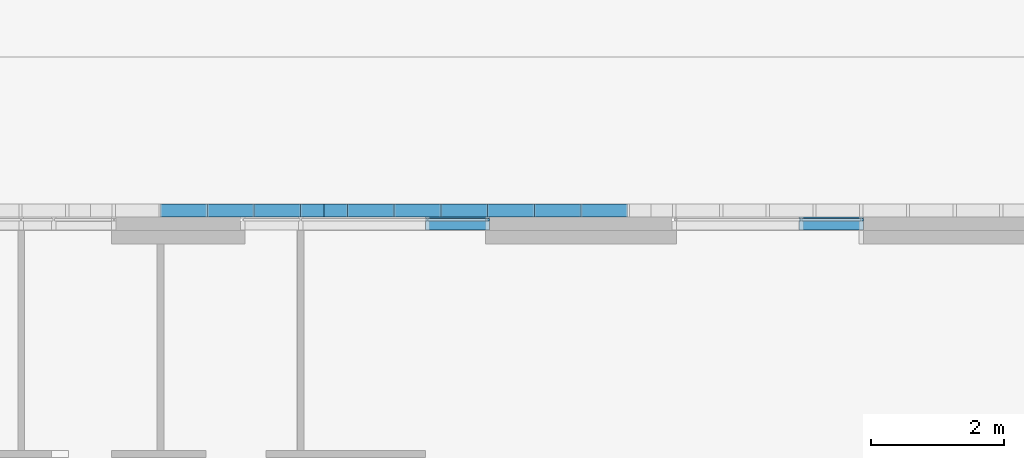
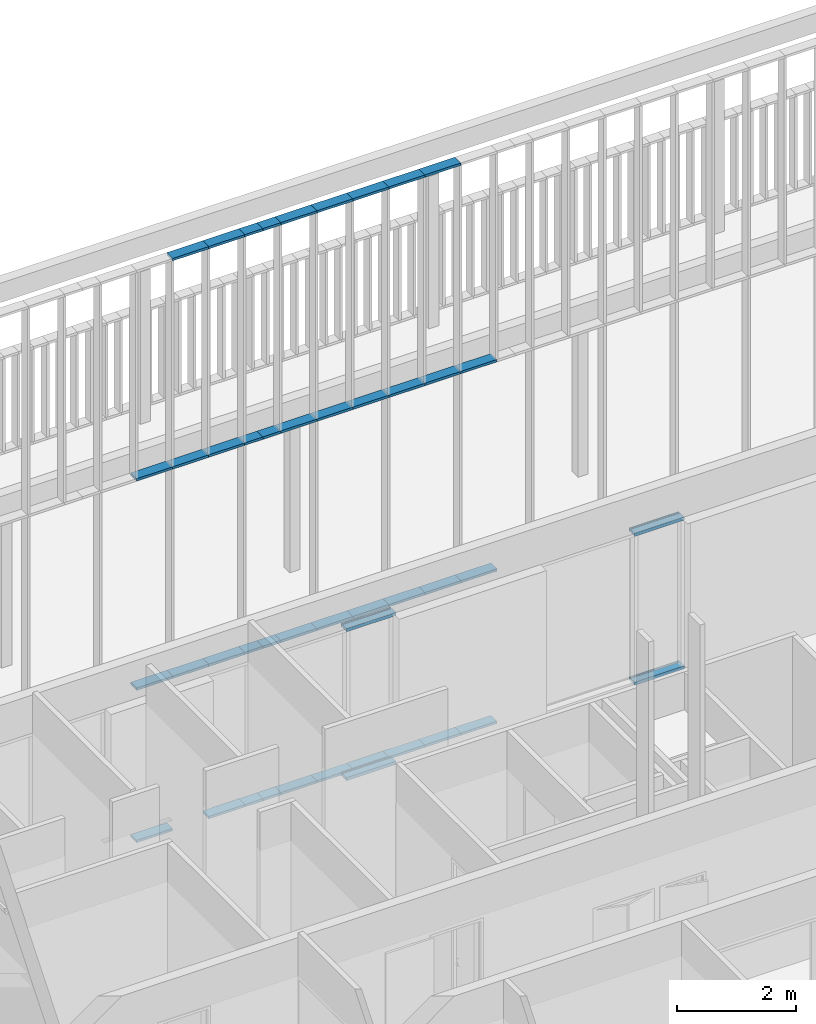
# One storey, part 51 of 240: 45 members, 3 elements without a shape of their own.
"""IFC2X3 building model written with IfcOpenShell, lengths in centimetres."""

from ifc_helpers import new_model, entity, si_unit, converted_unit, derived_unit, direction, frame, origin, origin_2d_with_axis, place, context, subcontext, project, spatial, polyline, rectangle, outline, extrude, source, transform, mapped, material, type_object, type_shapes, element, aggregate, save


model = new_model("IFC2X3")

# Units and contexts
model_context = context("Model", 3, precision=0.001, world=origin(), true_north=direction((6.12303176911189e-17, 1.0)))
body_context = subcontext(model_context, "Body", "Model", "MODEL_VIEW")
ifc_project = project(units=[si_unit("LENGTHUNIT", "METRE", prefix="CENTI"), si_unit("AREAUNIT", "SQUARE_METRE"), si_unit("VOLUMEUNIT", "CUBIC_METRE"), converted_unit("PLANEANGLEUNIT", "DEGREE", entity("IfcRatioMeasure", 0.0174532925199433), si_unit("PLANEANGLEUNIT", "RADIAN"), dimensions=[0, 0, 0, 0, 0, 0, 0]), si_unit("MASSUNIT", "GRAM", prefix="KILO"), derived_unit("MASSDENSITYUNIT", [(si_unit("MASSUNIT", "GRAM", prefix="KILO"), 1), (si_unit("LENGTHUNIT", "METRE"), -3)]), si_unit("TIMEUNIT", "SECOND"), si_unit("FREQUENCYUNIT", "HERTZ"), si_unit("THERMODYNAMICTEMPERATUREUNIT", "DEGREE_CELSIUS"), derived_unit("THERMALTRANSMITTANCEUNIT", [(si_unit("MASSUNIT", "GRAM", prefix="KILO"), 1), (si_unit("THERMODYNAMICTEMPERATUREUNIT", "KELVIN"), -1), (si_unit("TIMEUNIT", "SECOND"), -3)]), derived_unit("VOLUMETRICFLOWRATEUNIT", [(si_unit("LENGTHUNIT", "METRE"), 3), (si_unit("TIMEUNIT", "SECOND"), -1)]), si_unit("ELECTRICCURRENTUNIT", "AMPERE"), si_unit("ELECTRICVOLTAGEUNIT", "VOLT"), si_unit("POWERUNIT", "WATT"), si_unit("FORCEUNIT", "NEWTON", prefix="KILO"), si_unit("ILLUMINANCEUNIT", "LUX"), si_unit("LUMINOUSFLUXUNIT", "LUMEN"), si_unit("LUMINOUSINTENSITYUNIT", "CANDELA"), derived_unit("USERDEFINED", [(si_unit("MASSUNIT", "GRAM", prefix="KILO"), -1), (si_unit("LENGTHUNIT", "METRE"), -2), (si_unit("TIMEUNIT", "SECOND"), 3), (si_unit("LUMINOUSFLUXUNIT", "LUMEN"), 1)]), derived_unit("LINEARVELOCITYUNIT", [(si_unit("LENGTHUNIT", "METRE"), 1), (si_unit("TIMEUNIT", "SECOND"), -1)]), si_unit("PRESSUREUNIT", "PASCAL"), derived_unit("USERDEFINED", [(si_unit("LENGTHUNIT", "METRE"), -2), (si_unit("MASSUNIT", "GRAM", prefix="KILO"), 1), (si_unit("TIMEUNIT", "SECOND"), -2)])], contexts=[model_context])

# Site, building, storey
site_placement = place(None, frame((-2781.94577612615, 7442.24238424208, 0.0)))
site = spatial("IfcSite", under=ifc_project, at=site_placement, Name="Default", CompositionType="ELEMENT")
building_placement = place(site_placement, origin())
building = spatial("IfcBuilding", under=site, at=building_placement, CompositionType="ELEMENT")
storey_placement = place(building_placement, origin())
storey = spatial("IfcBuildingStorey", under=building, at=storey_placement, Name="N00 - COO", CompositionType="ELEMENT", Elevation=0.0)

# Curtain wall, members
curtain_wall_type_1 = type_object("IfcCurtainWallType", Name="Mur-rideau:07 - mur rideau trame 280 cm", PredefinedType="NOTDEFINED")
curtain_wall_1_placement = place(building_placement, origin())
curtain_wall_1 = element("IfcCurtainWall", 1, at=curtain_wall_1_placement, inside=storey, type_object=curtain_wall_type_1, Name="Mur-rideau:07 - mur rideau trame 280 cm", ObjectType="Mur-rideau:07 - mur rideau trame 280 cm")
ifc_material = material(Name="Aluminium")
member_type_1 = type_object("IfcMemberType", Name="150 x 25mm Détails", PredefinedType="MEMBER")
shared_shape_1 = source(origin(), body_context, "Body", "SweptSolid", [
    extrude(outline(polyline([(-5.6666666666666, -3.24999999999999), (-3.66666666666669, -3.24999999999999), (-3.66666666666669, -0.868749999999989), (-0.166666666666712, -0.868749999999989), (-0.166666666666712, -3.25000000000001), (13.3333333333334, -3.25000000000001), (13.3333333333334, 3.24999999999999), (-0.16666666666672, 3.24999999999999), (-0.16666666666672, 0.868749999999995), (-3.66666666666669, 0.868749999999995), (-3.66666666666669, 3.25), (-5.6666666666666, 3.25), (-5.6666666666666, -3.24999999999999)])), frame((-3.24999999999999, -1.96666666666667, -96.5000000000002), z_axis=(0.0, 0.0, 1.0), x_axis=(0.0, -1.0, 0.0)), (0.0, 0.0, 1.0), 96.5),
])
type_shapes(member_type_1, [shared_shape_1])
member_1_placement = place(building_placement, frame((-1622.54988284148, -1073.7999999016, 6.5), z_axis=(-1.0, 0.0, 0.0), x_axis=(0.0, 0.0, 1.0)))
member_1 = element("IfcMember", 2, at=member_1_placement, type_object=member_type_1, material=ifc_material, Name="Meneau rectangulaire:150 x 25mm Détails", ObjectType="Meneau rectangulaire:150 x 25mm Détails", context=body_context, shape_type="MappedRepresentation", body=[
    mapped(shared_shape_1, transform((0.0, 0.0, 0.0), scale=1.0)),
])
member_type_2 = type_object("IfcMemberType", Name="150 x 25mm Détails", PredefinedType="MEMBER")
shared_shape_2 = source(origin(), body_context, "Body", "SweptSolid", [
    extrude(outline(polyline([(-5.66666666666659, -3.25), (-3.66666666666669, -3.25), (-3.66666666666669, -0.868749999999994), (-0.166666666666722, -0.868749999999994), (-0.166666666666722, -3.25000000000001), (13.3333333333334, -3.24999999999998), (13.3333333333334, 3.25000000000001), (-0.166666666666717, 3.25000000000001), (-0.166666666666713, 0.868749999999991), (-3.66666666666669, 0.868749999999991), (-3.66666666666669, 3.24999999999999), (-5.66666666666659, 3.24999999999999), (-5.66666666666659, -3.25)])), frame((-3.24999999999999, -1.96666666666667, -96.5000000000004), z_axis=(0.0, 0.0, 1.0), x_axis=(0.0, -1.0, 0.0)), (0.0, 0.0, 1.0), 96.5),
])
type_shapes(member_type_2, [shared_shape_2])
member_2_placement = place(building_placement, frame((-1526.04988284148, -1073.7999999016, 306.0), z_axis=(1.0, 0.0, 0.0), x_axis=(0.0, 0.0, -1.0)))
member_2 = element("IfcMember", 3, at=member_2_placement, type_object=member_type_2, material=ifc_material, Name="Meneau rectangulaire:150 x 25mm Détails", ObjectType="Meneau rectangulaire:150 x 25mm Détails", context=body_context, shape_type="MappedRepresentation", body=[
    mapped(shared_shape_2, transform((0.0, 0.0, 0.0), scale=1.0)),
])
aggregate(curtain_wall_1, [member_2, member_1])

curtain_wall_2_placement = place(building_placement, origin())
curtain_wall_2 = element("IfcCurtainWall", 4, at=curtain_wall_2_placement, inside=storey, type_object=curtain_wall_type_1, Name="Mur-rideau:07 - mur rideau trame 280 cm", ObjectType="Mur-rideau:07 - mur rideau trame 280 cm")
member_type_3 = type_object("IfcMemberType", Name="150 x 25mm Détails", PredefinedType="MEMBER")
shared_shape_3 = source(origin(), body_context, "Body", "SweptSolid", [
    extrude(outline(polyline([(-13.3333333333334, -3.25000000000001), (0.166666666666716, -3.25000000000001), (0.166666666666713, -0.86874999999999), (3.66666666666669, -0.86874999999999), (3.66666666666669, -3.24999999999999), (5.66666666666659, -3.24999999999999), (5.66666666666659, 3.25), (3.66666666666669, 3.25), (3.66666666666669, 0.868749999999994), (0.166666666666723, 0.868749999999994), (0.166666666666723, 3.25000000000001), (-13.3333333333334, 3.24999999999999), (-13.3333333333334, -3.25000000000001)])), frame((-3.24999999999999, 1.96666666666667, -96.5000000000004), z_axis=(0.0, 0.0, 1.0), x_axis=(0.0, -1.0, 0.0)), (0.0, 0.0, 1.0), 96.5),
])
type_shapes(member_type_3, [shared_shape_3])
member_3_placement = place(building_placement, frame((-2086.04988284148, -1073.7999999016, 6.5), z_axis=(1.0, 0.0, 0.0), x_axis=(0.0, 0.0, 1.0)))
member_3 = element("IfcMember", 5, at=member_3_placement, type_object=member_type_3, material=ifc_material, Name="Meneau rectangulaire:150 x 25mm Détails", ObjectType="Meneau rectangulaire:150 x 25mm Détails", context=body_context, shape_type="MappedRepresentation", body=[
    mapped(shared_shape_3, transform((0.0, 0.0, 0.0), scale=1.0)),
])
member_type_4 = type_object("IfcMemberType", Name="150 x 25mm Détails", PredefinedType="MEMBER")
shared_shape_4 = source(origin(), body_context, "Body", "SweptSolid", [
    extrude(outline(polyline([(-13.3333333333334, -3.24999999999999), (0.166666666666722, -3.24999999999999), (0.166666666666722, -0.868749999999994), (3.66666666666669, -0.868749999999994), (3.66666666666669, -3.25), (5.66666666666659, -3.25), (5.66666666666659, 3.24999999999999), (3.66666666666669, 3.24999999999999), (3.66666666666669, 0.86874999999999), (0.166666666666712, 0.86874999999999), (0.166666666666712, 3.25000000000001), (-13.3333333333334, 3.25000000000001), (-13.3333333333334, -3.24999999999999)])), frame((-3.24999999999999, 1.96666666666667, -96.5000000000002), z_axis=(0.0, 0.0, 1.0), x_axis=(0.0, -1.0, 0.0)), (0.0, 0.0, 1.0), 96.5),
])
type_shapes(member_type_4, [shared_shape_4])
member_4_placement = place(building_placement, frame((-2182.54988284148, -1073.7999999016, 306.0), z_axis=(-1.0, 0.0, 0.0), x_axis=(0.0, 0.0, -1.0)))
member_4 = element("IfcMember", 6, at=member_4_placement, type_object=member_type_4, material=ifc_material, Name="Meneau rectangulaire:150 x 25mm Détails", ObjectType="Meneau rectangulaire:150 x 25mm Détails", context=body_context, shape_type="MappedRepresentation", body=[
    mapped(shared_shape_4, transform((0.0, 0.0, 0.0), scale=1.0)),
])
aggregate(curtain_wall_2, [member_4, member_3])

curtain_wall_type_2 = type_object("IfcCurtainWallType", Name="Mur-rideau:Epines - 200x30mm", PredefinedType="NOTDEFINED")
curtain_wall_3_placement = place(storey_placement, origin())
curtain_wall_3 = element("IfcCurtainWall", 7, at=curtain_wall_3_placement, inside=storey, type_object=curtain_wall_type_2, Name="Mur-rideau:Epines - 200x30mm", ObjectType="Mur-rideau:Epines - 200x30mm")
member_type_5 = type_object("IfcMemberType", Name="200x50 mm", PredefinedType="MEMBER")
shared_shape_5 = source(origin(), body_context, "Body", "SweptSolid", [
    extrude(rectangle(XDim=20.0, YDim=5.0, at=origin_2d_with_axis()), frame((-2.5, 0.0, -70.0), z_axis=(0.0, 0.0, 1.0), x_axis=(0.0, -1.0, 0.0)), (0.0, 0.0, 1.0), 70.0000000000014),
])
type_shapes(member_type_5, [shared_shape_5])
member_5_placement = place(storey_placement, frame((-2089.29988284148, -1060.0, 1176.0), z_axis=(1.0, 0.0, 0.0), x_axis=(0.0, 0.0, 1.0)))
member_5 = element("IfcMember", 8, at=member_5_placement, type_object=member_type_5, material=ifc_material, Name="Meneau rectangulaire:200x50 mm", ObjectType="Meneau rectangulaire:200x50 mm", context=body_context, shape_type="MappedRepresentation", body=[
    mapped(shared_shape_5, transform((0.0, 0.0, 0.0), scale=1.0)),
])
member_6_placement = place(storey_placement, frame((-2369.29988284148, -1060.0, 1176.0), z_axis=(1.0, 0.0, 0.0), x_axis=(0.0, 0.0, 1.0)))
member_6 = element("IfcMember", 9, at=member_6_placement, type_object=member_type_5, material=ifc_material, Name="Meneau rectangulaire:200x50 mm", ObjectType="Meneau rectangulaire:200x50 mm", context=body_context, shape_type="MappedRepresentation", body=[
    mapped(shared_shape_5, transform((0.0, 0.0, 0.0), scale=1.0)),
])
member_7_placement = place(storey_placement, frame((-1949.29988284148, -1060.0, 1176.0), z_axis=(1.0, 0.0, 0.0), x_axis=(0.0, 0.0, 1.0)))
member_7 = element("IfcMember", 10, at=member_7_placement, type_object=member_type_5, material=ifc_material, Name="Meneau rectangulaire:200x50 mm", ObjectType="Meneau rectangulaire:200x50 mm", context=body_context, shape_type="MappedRepresentation", body=[
    mapped(shared_shape_5, transform((0.0, 0.0, 0.0), scale=1.0)),
])
member_8_placement = place(storey_placement, frame((-2229.29988284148, -1060.0, 1176.0), z_axis=(1.0, 0.0, 0.0), x_axis=(0.0, 0.0, 1.0)))
member_8 = element("IfcMember", 11, at=member_8_placement, type_object=member_type_5, material=ifc_material, Name="Meneau rectangulaire:200x50 mm", ObjectType="Meneau rectangulaire:200x50 mm", context=body_context, shape_type="MappedRepresentation", body=[
    mapped(shared_shape_5, transform((0.0, 0.0, 0.0), scale=1.0)),
])
member_9_placement = place(storey_placement, frame((-2019.29988284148, -1060.0, 1176.0), z_axis=(1.0, 0.0, 0.0), x_axis=(0.0, 0.0, 1.0)))
member_9 = element("IfcMember", 12, at=member_9_placement, type_object=member_type_5, material=ifc_material, Name="Meneau rectangulaire:200x50 mm", ObjectType="Meneau rectangulaire:200x50 mm", context=body_context, shape_type="MappedRepresentation", body=[
    mapped(shared_shape_5, transform((0.0, 0.0, 0.0), scale=1.0)),
])
member_10_placement = place(storey_placement, frame((-2159.29988284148, -1060.0, 1176.0), z_axis=(1.0, 0.0, 0.0), x_axis=(0.0, 0.0, 1.0)))
member_10 = element("IfcMember", 13, at=member_10_placement, type_object=member_type_5, material=ifc_material, Name="Meneau rectangulaire:200x50 mm", ObjectType="Meneau rectangulaire:200x50 mm", context=body_context, shape_type="MappedRepresentation", body=[
    mapped(shared_shape_5, transform((0.0, 0.0, 0.0), scale=1.0)),
])
member_11_placement = place(storey_placement, frame((-2439.29988284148, -1060.0, 1176.0), z_axis=(1.0, 0.0, 0.0), x_axis=(0.0, 0.0, 1.0)))
member_11 = element("IfcMember", 14, at=member_11_placement, type_object=member_type_5, material=ifc_material, Name="Meneau rectangulaire:200x50 mm", ObjectType="Meneau rectangulaire:200x50 mm", context=body_context, shape_type="MappedRepresentation", body=[
    mapped(shared_shape_5, transform((0.0, 0.0, 0.0), scale=1.0)),
])
member_type_6 = type_object("IfcMemberType", Name="200x50 mm", PredefinedType="MEMBER")
shared_shape_6 = source(origin(), body_context, "Body", "SweptSolid", [
    extrude(rectangle(XDim=20.0, YDim=5.0, at=origin_2d_with_axis()), frame((-2.5, 0.0, -70.0), z_axis=(0.0, 0.0, 1.0), x_axis=(0.0, -1.0, 0.0)), (0.0, 0.0, 1.0), 70.0000000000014),
])
type_shapes(member_type_6, [shared_shape_6])
member_12_placement = place(storey_placement, frame((-2089.29988284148, -1060.0, 0.0), z_axis=(-1.0, 0.0, 0.0), x_axis=(0.0, 0.0, -1.0)))
member_12 = element("IfcMember", 15, at=member_12_placement, type_object=member_type_6, material=ifc_material, Name="Meneau rectangulaire:200x50 mm", ObjectType="Meneau rectangulaire:200x50 mm", context=body_context, shape_type="MappedRepresentation", body=[
    mapped(shared_shape_6, transform((0.0, 0.0, 0.0), scale=1.0)),
])
member_type_7 = type_object("IfcMemberType", Name="200x50 mm", PredefinedType="MEMBER")
shared_shape_7 = source(origin(), body_context, "Body", "SweptSolid", [
    extrude(rectangle(XDim=20.0, YDim=5.0, at=origin_2d_with_axis()), frame((0.0, 0.0, -70.0), z_axis=(0.0, 0.0, 1.0), x_axis=(0.0, -1.0, 0.0)), (0.0, 0.0, 1.0), 70.0000000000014),
])
type_shapes(member_type_7, [shared_shape_7])
member_13_placement = place(storey_placement, frame((-2019.29988284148, -1060.0, 315.5), z_axis=(1.0, 0.0, 0.0), x_axis=(0.0, 0.0, 1.0)))
member_13 = element("IfcMember", 16, at=member_13_placement, type_object=member_type_7, material=ifc_material, Name="Meneau rectangulaire:200x50 mm", ObjectType="Meneau rectangulaire:200x50 mm", context=body_context, shape_type="MappedRepresentation", body=[
    mapped(shared_shape_7, transform((0.0, 0.0, 0.0), scale=1.0)),
])
member_14_placement = place(storey_placement, frame((-1879.29988284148, -1060.0, 315.5), z_axis=(1.0, 0.0, 0.0), x_axis=(0.0, 0.0, 1.0)))
member_14 = element("IfcMember", 17, at=member_14_placement, type_object=member_type_7, material=ifc_material, Name="Meneau rectangulaire:200x50 mm", ObjectType="Meneau rectangulaire:200x50 mm", context=body_context, shape_type="MappedRepresentation", body=[
    mapped(shared_shape_7, transform((0.0, 0.0, 0.0), scale=1.0)),
])
member_15_placement = place(storey_placement, frame((-2159.29988284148, -1060.0, 315.5), z_axis=(1.0, 0.0, 0.0), x_axis=(0.0, 0.0, 1.0)))
member_15 = element("IfcMember", 18, at=member_15_placement, type_object=member_type_7, material=ifc_material, Name="Meneau rectangulaire:200x50 mm", ObjectType="Meneau rectangulaire:200x50 mm", context=body_context, shape_type="MappedRepresentation", body=[
    mapped(shared_shape_7, transform((0.0, 0.0, 0.0), scale=1.0)),
])
member_16_placement = place(storey_placement, frame((-2439.29988284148, -1060.0, 315.5), z_axis=(1.0, 0.0, 0.0), x_axis=(0.0, 0.0, 1.0)))
member_16 = element("IfcMember", 19, at=member_16_placement, type_object=member_type_7, material=ifc_material, Name="Meneau rectangulaire:200x50 mm", ObjectType="Meneau rectangulaire:200x50 mm", context=body_context, shape_type="MappedRepresentation", body=[
    mapped(shared_shape_7, transform((0.0, 0.0, 0.0), scale=1.0)),
])
member_type_8 = type_object("IfcMemberType", Name="200x50 mm", PredefinedType="MEMBER")
shared_shape_8 = source(origin(), body_context, "Body", "SweptSolid", [
    extrude(rectangle(XDim=20.0, YDim=5.0, at=origin_2d_with_axis()), frame((0.0, 0.0, -70.0), z_axis=(0.0, 0.0, 1.0), x_axis=(0.0, -1.0, 0.0)), (0.0, 0.0, 1.0), 70.0000000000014),
])
type_shapes(member_type_8, [shared_shape_8])
member_17_placement = place(storey_placement, frame((-2019.29988284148, -1060.0, 745.5), z_axis=(1.0, 0.0, 0.0), x_axis=(0.0, 0.0, 1.0)))
member_17 = element("IfcMember", 20, at=member_17_placement, type_object=member_type_8, material=ifc_material, Name="Meneau rectangulaire:200x50 mm", ObjectType="Meneau rectangulaire:200x50 mm", context=body_context, shape_type="MappedRepresentation", body=[
    mapped(shared_shape_8, transform((0.0, 0.0, 0.0), scale=1.0)),
])
member_18_placement = place(storey_placement, frame((-1879.29988284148, -1060.0, 745.5), z_axis=(1.0, 0.0, 0.0), x_axis=(0.0, 0.0, 1.0)))
member_18 = element("IfcMember", 21, at=member_18_placement, type_object=member_type_8, material=ifc_material, Name="Meneau rectangulaire:200x50 mm", ObjectType="Meneau rectangulaire:200x50 mm", context=body_context, shape_type="MappedRepresentation", body=[
    mapped(shared_shape_8, transform((0.0, 0.0, 0.0), scale=1.0)),
])
member_19_placement = place(storey_placement, frame((-2159.29988284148, -1060.0, 745.5), z_axis=(1.0, 0.0, 0.0), x_axis=(0.0, 0.0, 1.0)))
member_19 = element("IfcMember", 22, at=member_19_placement, type_object=member_type_8, material=ifc_material, Name="Meneau rectangulaire:200x50 mm", ObjectType="Meneau rectangulaire:200x50 mm", context=body_context, shape_type="MappedRepresentation", body=[
    mapped(shared_shape_8, transform((0.0, 0.0, 0.0), scale=1.0)),
])
member_20_placement = place(storey_placement, frame((-2439.29988284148, -1060.0, 745.5), z_axis=(1.0, 0.0, 0.0), x_axis=(0.0, 0.0, 1.0)))
member_20 = element("IfcMember", 23, at=member_20_placement, type_object=member_type_8, material=ifc_material, Name="Meneau rectangulaire:200x50 mm", ObjectType="Meneau rectangulaire:200x50 mm", context=body_context, shape_type="MappedRepresentation", body=[
    mapped(shared_shape_8, transform((0.0, 0.0, 0.0), scale=1.0)),
])
member_21_placement = place(storey_placement, frame((-1949.29988284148, -1060.0, 745.5), z_axis=(1.0, 0.0, 0.0), x_axis=(0.0, 0.0, 1.0)))
member_21 = element("IfcMember", 24, at=member_21_placement, type_object=member_type_8, material=ifc_material, Name="Meneau rectangulaire:200x50 mm", ObjectType="Meneau rectangulaire:200x50 mm", context=body_context, shape_type="MappedRepresentation", body=[
    mapped(shared_shape_8, transform((0.0, 0.0, 0.0), scale=1.0)),
])
member_22_placement = place(storey_placement, frame((-2089.29988284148, -1060.0, 745.5), z_axis=(1.0, 0.0, 0.0), x_axis=(0.0, 0.0, 1.0)))
member_22 = element("IfcMember", 25, at=member_22_placement, type_object=member_type_8, material=ifc_material, Name="Meneau rectangulaire:200x50 mm", ObjectType="Meneau rectangulaire:200x50 mm", context=body_context, shape_type="MappedRepresentation", body=[
    mapped(shared_shape_8, transform((0.0, 0.0, 0.0), scale=1.0)),
])
member_23_placement = place(storey_placement, frame((-2229.29988284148, -1060.0, 745.5), z_axis=(1.0, 0.0, 0.0), x_axis=(0.0, 0.0, 1.0)))
member_23 = element("IfcMember", 26, at=member_23_placement, type_object=member_type_8, material=ifc_material, Name="Meneau rectangulaire:200x50 mm", ObjectType="Meneau rectangulaire:200x50 mm", context=body_context, shape_type="MappedRepresentation", body=[
    mapped(shared_shape_8, transform((0.0, 0.0, 0.0), scale=1.0)),
])
member_24_placement = place(storey_placement, frame((-2369.29988284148, -1060.0, 745.5), z_axis=(1.0, 0.0, 0.0), x_axis=(0.0, 0.0, 1.0)))
member_24 = element("IfcMember", 27, at=member_24_placement, type_object=member_type_8, material=ifc_material, Name="Meneau rectangulaire:200x50 mm", ObjectType="Meneau rectangulaire:200x50 mm", context=body_context, shape_type="MappedRepresentation", body=[
    mapped(shared_shape_8, transform((0.0, 0.0, 0.0), scale=1.0)),
])
member_25_placement = place(storey_placement, frame((-2509.29988284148, -1060.0, 745.5), z_axis=(1.0, 0.0, 0.0), x_axis=(0.0, 0.0, 1.0)))
member_25 = element("IfcMember", 28, at=member_25_placement, type_object=member_type_8, material=ifc_material, Name="Meneau rectangulaire:200x50 mm", ObjectType="Meneau rectangulaire:200x50 mm", context=body_context, shape_type="MappedRepresentation", body=[
    mapped(shared_shape_8, transform((0.0, 0.0, 0.0), scale=1.0)),
])
member_type_9 = type_object("IfcMemberType", Name="200x50 mm", PredefinedType="MEMBER")
shared_shape_9 = source(origin(), body_context, "Body", "SweptSolid", [
    extrude(rectangle(XDim=20.0, YDim=5.0, at=origin_2d_with_axis()), frame((-2.5, 0.0, -70.0), z_axis=(0.0, 0.0, 1.0), x_axis=(0.0, -1.0, 0.0)), (0.0, 0.0, 1.0), 69.9999999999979),
])
type_shapes(member_type_9, [shared_shape_9])
member_26_placement = place(storey_placement, frame((-1949.29988284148, -1060.0, 0.0), z_axis=(-1.0, 0.0, 0.0), x_axis=(0.0, 0.0, -1.0)))
member_26 = element("IfcMember", 29, at=member_26_placement, type_object=member_type_9, material=ifc_material, Name="Meneau rectangulaire:200x50 mm", ObjectType="Meneau rectangulaire:200x50 mm", context=body_context, shape_type="MappedRepresentation", body=[
    mapped(shared_shape_9, transform((0.0, 0.0, 0.0), scale=1.0)),
])
member_27_placement = place(storey_placement, frame((-2229.29988284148, -1060.0, 0.0), z_axis=(-1.0, 0.0, 0.0), x_axis=(0.0, 0.0, -1.0)))
member_27 = element("IfcMember", 30, at=member_27_placement, type_object=member_type_9, material=ifc_material, Name="Meneau rectangulaire:200x50 mm", ObjectType="Meneau rectangulaire:200x50 mm", context=body_context, shape_type="MappedRepresentation", body=[
    mapped(shared_shape_9, transform((0.0, 0.0, 0.0), scale=1.0)),
])
member_28_placement = place(storey_placement, frame((-2019.29988284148, -1060.0, 0.0), z_axis=(-1.0, 0.0, 0.0), x_axis=(0.0, 0.0, -1.0)))
member_28 = element("IfcMember", 31, at=member_28_placement, type_object=member_type_9, material=ifc_material, Name="Meneau rectangulaire:200x50 mm", ObjectType="Meneau rectangulaire:200x50 mm", context=body_context, shape_type="MappedRepresentation", body=[
    mapped(shared_shape_9, transform((0.0, 0.0, 0.0), scale=1.0)),
])
member_29_placement = place(storey_placement, frame((-2299.29988284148, -1060.0, 0.0), z_axis=(-1.0, 0.0, 0.0), x_axis=(0.0, 0.0, -1.0)))
member_29 = element("IfcMember", 32, at=member_29_placement, type_object=member_type_9, material=ifc_material, Name="Meneau rectangulaire:200x50 mm", ObjectType="Meneau rectangulaire:200x50 mm", context=body_context, shape_type="MappedRepresentation", body=[
    mapped(shared_shape_9, transform((0.0, 0.0, 0.0), scale=1.0)),
])
member_30_placement = place(storey_placement, frame((-2579.29988284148, -1060.0, 0.0), z_axis=(-1.0, 0.0, 0.0), x_axis=(0.0, 0.0, -1.0)))
member_30 = element("IfcMember", 33, at=member_30_placement, type_object=member_type_9, material=ifc_material, Name="Meneau rectangulaire:200x50 mm", ObjectType="Meneau rectangulaire:200x50 mm", context=body_context, shape_type="MappedRepresentation", body=[
    mapped(shared_shape_9, transform((0.0, 0.0, 0.0), scale=1.0)),
])
member_type_10 = type_object("IfcMemberType", Name="200x50 mm", PredefinedType="MEMBER")
shared_shape_10 = source(origin(), body_context, "Body", "SweptSolid", [
    extrude(rectangle(XDim=20.0, YDim=5.0, at=origin_2d_with_axis()), frame((0.0, 0.0, -70.0), z_axis=(0.0, 0.0, 1.0), x_axis=(0.0, -1.0, 0.0)), (0.0, 0.0, 1.0), 70.0000000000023),
])
type_shapes(member_type_10, [shared_shape_10])
member_31_placement = place(storey_placement, frame((-1949.29988284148, -1060.0, 315.5), z_axis=(1.0, 0.0, 0.0), x_axis=(0.0, 0.0, 1.0)))
member_31 = element("IfcMember", 34, at=member_31_placement, type_object=member_type_10, material=ifc_material, Name="Meneau rectangulaire:200x50 mm", ObjectType="Meneau rectangulaire:200x50 mm", context=body_context, shape_type="MappedRepresentation", body=[
    mapped(shared_shape_10, transform((0.0, 0.0, 0.0), scale=1.0)),
])
member_32_placement = place(storey_placement, frame((-2089.29988284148, -1060.0, 315.5), z_axis=(1.0, 0.0, 0.0), x_axis=(0.0, 0.0, 1.0)))
member_32 = element("IfcMember", 35, at=member_32_placement, type_object=member_type_10, material=ifc_material, Name="Meneau rectangulaire:200x50 mm", ObjectType="Meneau rectangulaire:200x50 mm", context=body_context, shape_type="MappedRepresentation", body=[
    mapped(shared_shape_10, transform((0.0, 0.0, 0.0), scale=1.0)),
])
member_33_placement = place(storey_placement, frame((-2229.29988284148, -1060.0, 315.5), z_axis=(1.0, 0.0, 0.0), x_axis=(0.0, 0.0, 1.0)))
member_33 = element("IfcMember", 36, at=member_33_placement, type_object=member_type_10, material=ifc_material, Name="Meneau rectangulaire:200x50 mm", ObjectType="Meneau rectangulaire:200x50 mm", context=body_context, shape_type="MappedRepresentation", body=[
    mapped(shared_shape_10, transform((0.0, 0.0, 0.0), scale=1.0)),
])
member_34_placement = place(storey_placement, frame((-2369.29988284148, -1060.0, 315.5), z_axis=(1.0, 0.0, 0.0), x_axis=(0.0, 0.0, 1.0)))
member_34 = element("IfcMember", 37, at=member_34_placement, type_object=member_type_10, material=ifc_material, Name="Meneau rectangulaire:200x50 mm", ObjectType="Meneau rectangulaire:200x50 mm", context=body_context, shape_type="MappedRepresentation", body=[
    mapped(shared_shape_10, transform((0.0, 0.0, 0.0), scale=1.0)),
])
member_35_placement = place(storey_placement, frame((-2509.29988284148, -1060.0, 315.5), z_axis=(1.0, 0.0, 0.0), x_axis=(0.0, 0.0, 1.0)))
member_35 = element("IfcMember", 38, at=member_35_placement, type_object=member_type_10, material=ifc_material, Name="Meneau rectangulaire:200x50 mm", ObjectType="Meneau rectangulaire:200x50 mm", context=body_context, shape_type="MappedRepresentation", body=[
    mapped(shared_shape_10, transform((0.0, 0.0, 0.0), scale=1.0)),
])
member_type_11 = type_object("IfcMemberType", Name="200x50 mm", PredefinedType="MEMBER")
shared_shape_11 = source(origin(), body_context, "Body", "SweptSolid", [
    extrude(rectangle(XDim=20.0, YDim=5.0, at=origin_2d_with_axis()), frame((-2.5, 0.0, -70.0), z_axis=(0.0, 0.0, 1.0), x_axis=(0.0, -1.0, 0.0)), (0.0, 0.0, 1.0), 70.0000000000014),
])
type_shapes(member_type_11, [shared_shape_11])
member_36_placement = place(storey_placement, frame((-2159.29988284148, -1060.0, 0.0), z_axis=(-1.0, 0.0, 0.0), x_axis=(0.0, 0.0, -1.0)))
member_36 = element("IfcMember", 39, at=member_36_placement, type_object=member_type_11, material=ifc_material, Name="Meneau rectangulaire:200x50 mm", ObjectType="Meneau rectangulaire:200x50 mm", context=body_context, shape_type="MappedRepresentation", body=[
    mapped(shared_shape_11, transform((0.0, 0.0, 0.0), scale=1.0)),
])
member_37_placement = place(storey_placement, frame((-2439.29988284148, -1060.0, 0.0), z_axis=(-1.0, 0.0, 0.0), x_axis=(0.0, 0.0, -1.0)))
member_37 = element("IfcMember", 40, at=member_37_placement, type_object=member_type_11, material=ifc_material, Name="Meneau rectangulaire:200x50 mm", ObjectType="Meneau rectangulaire:200x50 mm", context=body_context, shape_type="MappedRepresentation", body=[
    mapped(shared_shape_11, transform((0.0, 0.0, 0.0), scale=1.0)),
])
member_type_12 = type_object("IfcMemberType", Name="200x50 mm", PredefinedType="MEMBER")
shared_shape_12 = source(origin(), body_context, "Body", "SweptSolid", [
    extrude(rectangle(XDim=20.0, YDim=5.0, at=origin_2d_with_axis()), frame((-2.5, 0.0, -35.0), z_axis=(0.0, 0.0, 1.0), x_axis=(0.0, -1.0, 0.0)), (0.0, 0.0, 1.0), 35.0000000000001),
])
type_shapes(member_type_12, [shared_shape_12])
member_38_placement = place(storey_placement, frame((-2299.29988284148, -1060.0, 1176.0), z_axis=(1.0, 0.0, 0.0), x_axis=(0.0, 0.0, 1.0)))
member_38 = element("IfcMember", 41, at=member_38_placement, type_object=member_type_12, material=ifc_material, Name="Meneau rectangulaire:200x50 mm", ObjectType="Meneau rectangulaire:200x50 mm", context=body_context, shape_type="MappedRepresentation", body=[
    mapped(shared_shape_12, transform((0.0, 0.0, 0.0), scale=1.0)),
])
member_type_13 = type_object("IfcMemberType", Name="200x50 mm", PredefinedType="MEMBER")
shared_shape_13 = source(origin(), body_context, "Body", "SweptSolid", [
    extrude(rectangle(XDim=20.0, YDim=5.0, at=origin_2d_with_axis()), frame((-2.5, 0.0, -35.0), z_axis=(0.0, 0.0, 1.0), x_axis=(0.0, -1.0, 0.0)), (0.0, 0.0, 1.0), 34.9999999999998),
])
type_shapes(member_type_13, [shared_shape_13])
member_39_placement = place(storey_placement, frame((-2369.29988284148, -1060.0, 0.0), z_axis=(-1.0, 0.0, 0.0), x_axis=(0.0, 0.0, -1.0)))
member_39 = element("IfcMember", 42, at=member_39_placement, type_object=member_type_13, material=ifc_material, Name="Meneau rectangulaire:200x50 mm", ObjectType="Meneau rectangulaire:200x50 mm", context=body_context, shape_type="MappedRepresentation", body=[
    mapped(shared_shape_13, transform((0.0, 0.0, 0.0), scale=1.0)),
])
member_type_14 = type_object("IfcMemberType", Name="200x50 mm", PredefinedType="MEMBER")
shared_shape_14 = source(origin(), body_context, "Body", "SweptSolid", [
    extrude(rectangle(XDim=20.0, YDim=5.0, at=origin_2d_with_axis()), frame((0.0, 0.0, -35.0), z_axis=(0.0, 0.0, 1.0), x_axis=(0.0, -1.0, 0.0)), (0.0, 0.0, 1.0), 34.9999999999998),
])
type_shapes(member_type_14, [shared_shape_14])
member_40_placement = place(storey_placement, frame((-2334.29988284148, -1060.0, 315.5), z_axis=(1.0, 0.0, 0.0), x_axis=(0.0, 0.0, 1.0)))
member_40 = element("IfcMember", 43, at=member_40_placement, type_object=member_type_14, material=ifc_material, Name="Meneau rectangulaire:200x50 mm", ObjectType="Meneau rectangulaire:200x50 mm", context=body_context, shape_type="MappedRepresentation", body=[
    mapped(shared_shape_14, transform((0.0, 0.0, 0.0), scale=1.0)),
])
member_41_placement = place(storey_placement, frame((-2334.29988284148, -1060.0, 745.5), z_axis=(1.0, 0.0, 0.0), x_axis=(0.0, 0.0, 1.0)))
member_41 = element("IfcMember", 44, at=member_41_placement, type_object=member_type_14, material=ifc_material, Name="Meneau rectangulaire:200x50 mm", ObjectType="Meneau rectangulaire:200x50 mm", context=body_context, shape_type="MappedRepresentation", body=[
    mapped(shared_shape_14, transform((0.0, 0.0, 0.0), scale=1.0)),
])
member_type_15 = type_object("IfcMemberType", Name="200x50 mm", PredefinedType="MEMBER")
shared_shape_15 = source(origin(), body_context, "Body", "SweptSolid", [
    extrude(rectangle(XDim=20.0, YDim=5.0, at=origin_2d_with_axis()), frame((-2.5, 0.0, -35.0), z_axis=(0.0, 0.0, 1.0), x_axis=(0.0, -1.0, 0.0)), (0.0, 0.0, 1.0), 35.0000000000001),
])
type_shapes(member_type_15, [shared_shape_15])
member_42_placement = place(storey_placement, frame((-2334.29988284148, -1060.0, 0.0), z_axis=(-1.0, 0.0, 0.0), x_axis=(0.0, 0.0, -1.0)))
member_42 = element("IfcMember", 45, at=member_42_placement, type_object=member_type_15, material=ifc_material, Name="Meneau rectangulaire:200x50 mm", ObjectType="Meneau rectangulaire:200x50 mm", context=body_context, shape_type="MappedRepresentation", body=[
    mapped(shared_shape_15, transform((0.0, 0.0, 0.0), scale=1.0)),
])
member_type_16 = type_object("IfcMemberType", Name="200x50 mm", PredefinedType="MEMBER")
shared_shape_16 = source(origin(), body_context, "Body", "SweptSolid", [
    extrude(rectangle(XDim=20.0, YDim=5.0, at=origin_2d_with_axis()), frame((0.0, 0.0, -35.0), z_axis=(0.0, 0.0, 1.0), x_axis=(0.0, -1.0, 0.0)), (0.0, 0.0, 1.0), 35.0000000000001),
])
type_shapes(member_type_16, [shared_shape_16])
member_43_placement = place(storey_placement, frame((-2299.29988284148, -1060.0, 315.5), z_axis=(1.0, 0.0, 0.0), x_axis=(0.0, 0.0, 1.0)))
member_43 = element("IfcMember", 46, at=member_43_placement, type_object=member_type_16, material=ifc_material, Name="Meneau rectangulaire:200x50 mm", ObjectType="Meneau rectangulaire:200x50 mm", context=body_context, shape_type="MappedRepresentation", body=[
    mapped(shared_shape_16, transform((0.0, 0.0, 0.0), scale=1.0)),
])
member_type_17 = type_object("IfcMemberType", Name="200x50 mm", PredefinedType="MEMBER")
shared_shape_17 = source(origin(), body_context, "Body", "SweptSolid", [
    extrude(rectangle(XDim=20.0, YDim=5.0, at=origin_2d_with_axis()), frame((-2.5, 0.0, -35.0), z_axis=(0.0, 0.0, 1.0), x_axis=(0.0, -1.0, 0.0)), (0.0, 0.0, 1.0), 34.9999999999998),
])
type_shapes(member_type_17, [shared_shape_17])
member_44_placement = place(storey_placement, frame((-2334.29988284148, -1060.0, 1176.0), z_axis=(1.0, 0.0, 0.0), x_axis=(0.0, 0.0, 1.0)))
member_44 = element("IfcMember", 47, at=member_44_placement, type_object=member_type_17, material=ifc_material, Name="Meneau rectangulaire:200x50 mm", ObjectType="Meneau rectangulaire:200x50 mm", context=body_context, shape_type="MappedRepresentation", body=[
    mapped(shared_shape_17, transform((0.0, 0.0, 0.0), scale=1.0)),
])
member_type_18 = type_object("IfcMemberType", Name="200x50 mm", PredefinedType="MEMBER")
shared_shape_18 = source(origin(), body_context, "Body", "SweptSolid", [
    extrude(rectangle(XDim=20.0, YDim=5.0, at=origin_2d_with_axis()), frame((0.0, 0.0, -35.0), z_axis=(0.0, 0.0, 1.0), x_axis=(0.0, -1.0, 0.0)), (0.0, 0.0, 1.0), 35.0000000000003),
])
type_shapes(member_type_18, [shared_shape_18])
member_45_placement = place(storey_placement, frame((-2299.29988284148, -1060.0, 745.5), z_axis=(1.0, 0.0, 0.0), x_axis=(0.0, 0.0, 1.0)))
member_45 = element("IfcMember", 48, at=member_45_placement, type_object=member_type_18, material=ifc_material, Name="Meneau rectangulaire:200x50 mm", ObjectType="Meneau rectangulaire:200x50 mm", context=body_context, shape_type="MappedRepresentation", body=[
    mapped(shared_shape_18, transform((0.0, 0.0, 0.0), scale=1.0)),
])
aggregate(curtain_wall_3, [member_5, member_12, member_13, member_17, member_6, member_39, member_40, member_41, member_7, member_26, member_14, member_18, member_8, member_27, member_15, member_19, member_16, member_20, member_9, member_28, member_31, member_21, member_10, member_36, member_32, member_22, member_38, member_29, member_33, member_23, member_11, member_37, member_34, member_24, member_30, member_35, member_25, member_44, member_42, member_43, member_45])

save(model, "model.ifc")
